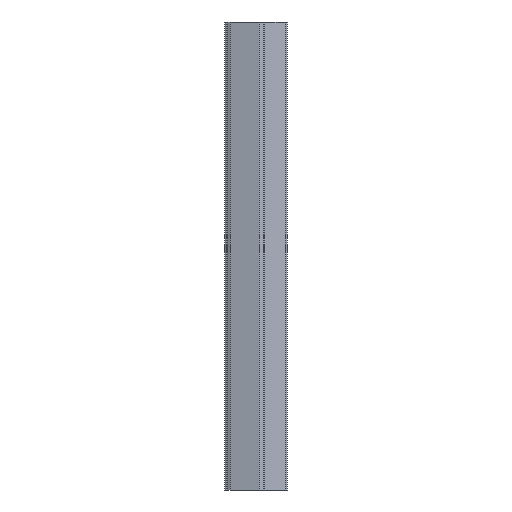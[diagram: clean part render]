
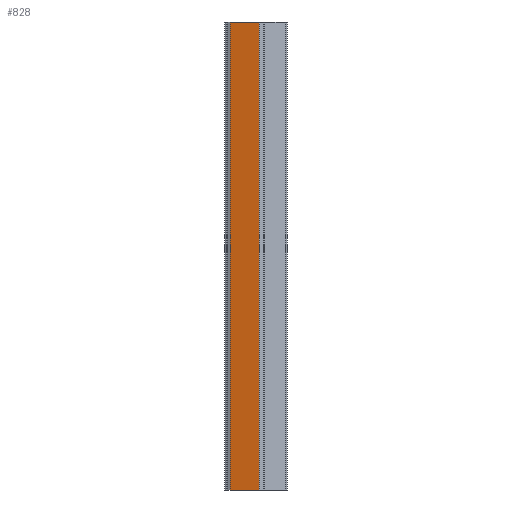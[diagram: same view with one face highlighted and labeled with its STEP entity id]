
A CAD part, left-side view. The second image highlights one B-rep face of the part: STEP entity #828.
In plain terms, the highlighted planar face has unit normal (-0.975, 0.223, 0).
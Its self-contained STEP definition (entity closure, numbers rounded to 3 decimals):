
#36=PLANE($,#893);
#76=FACE_OUTER_BOUND($,#116,.T.);
#116=EDGE_LOOP($,(#663,#664,#665,#666));
#197=LINE($,#1316,#293);
#199=LINE($,#1320,#295);
#200=LINE($,#1322,#296);
#201=LINE($,#1323,#297);
#293=VECTOR($,#1076,50.);
#295=VECTOR($,#1080,3.18);
#296=VECTOR($,#1081,50.);
#297=VECTOR($,#1082,3.18);
#405=VERTEX_POINT($,#1313);
#406=VERTEX_POINT($,#1315);
#407=VERTEX_POINT($,#1319);
#408=VERTEX_POINT($,#1321);
#513=EDGE_CURVE($,#406,#405,#197,.T.);
#515=EDGE_CURVE($,#405,#407,#199,.T.);
#516=EDGE_CURVE($,#408,#407,#200,.T.);
#517=EDGE_CURVE($,#406,#408,#201,.T.);
#663=ORIENTED_EDGE($,*,*,#515,.T.);
#664=ORIENTED_EDGE($,*,*,#516,.F.);
#665=ORIENTED_EDGE($,*,*,#517,.F.);
#666=ORIENTED_EDGE($,*,*,#513,.T.);
#828=ADVANCED_FACE($,(#76),#36,.T.);
#893=AXIS2_PLACEMENT_3D($,#1318,#1078,#1079);
#1076=DIRECTION($,(0.,0.,1.));
#1078=DIRECTION('center_axis',(-0.975,0.223,0.));
#1079=DIRECTION('ref_axis',(0.,0.,1.));
#1080=DIRECTION($,(0.223,0.975,0.));
#1081=DIRECTION($,(0.,0.,1.));
#1082=DIRECTION($,(0.223,0.975,0.));
#1313=CARTESIAN_POINT('',(1.192,3.455,50.));
#1315=CARTESIAN_POINT('',(1.192,3.455,0.));
#1316=CARTESIAN_POINT($,(1.192,3.455,0.));
#1318=CARTESIAN_POINT('Origin',(1.192,3.455,0.));
#1319=CARTESIAN_POINT('',(1.9,6.556,50.));
#1320=CARTESIAN_POINT($,(1.192,3.455,50.));
#1321=CARTESIAN_POINT('',(1.9,6.556,0.));
#1322=CARTESIAN_POINT($,(1.9,6.556,0.));
#1323=CARTESIAN_POINT($,(1.192,3.455,0.));
